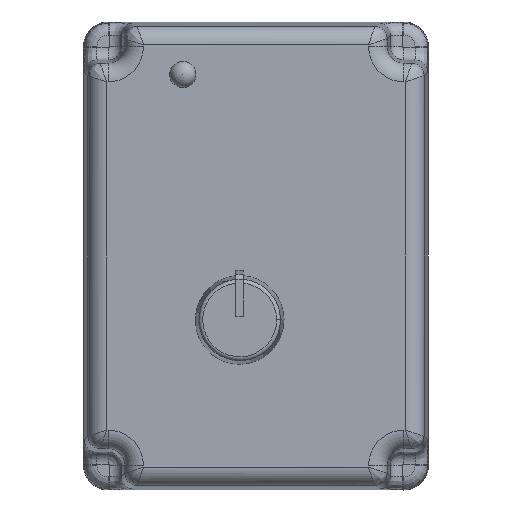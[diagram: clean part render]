
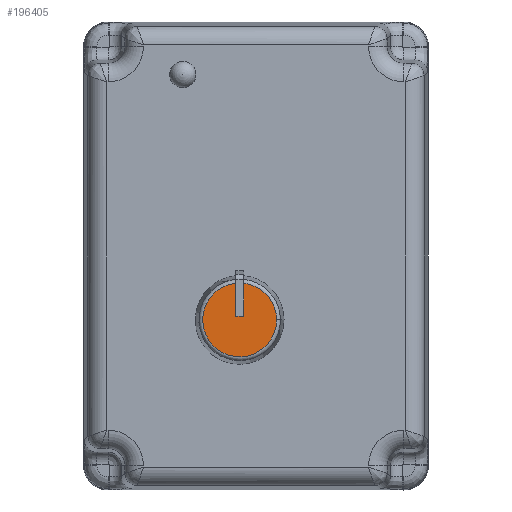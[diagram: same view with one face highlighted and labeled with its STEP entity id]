
A CAD part, front view. The second image highlights one B-rep face of the part: STEP entity #196405.
In plain terms, the highlighted planar face has unit normal (0, -1, 0).
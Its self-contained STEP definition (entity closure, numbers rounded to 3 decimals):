
#195922 = PLANE('',#195923);
#195923 = AXIS2_PLACEMENT_3D('',#195924,#195925,#195926);
#195924 = CARTESIAN_POINT('',(-1.598,14.376,
    -1.888));
#195925 = DIRECTION('',(1.,0.,0.));
#195926 = DIRECTION('',(0.,0.,-1.));
#195947 = VERTEX_POINT('',#195948);
#195948 = CARTESIAN_POINT('',(-1.598,0.66,
    -7.755));
#195962 = PLANE('',#195963);
#195963 = AXIS2_PLACEMENT_3D('',#195964,#195965,#195966);
#195964 = CARTESIAN_POINT('',(-1.598,14.376,
    -7.755));
#195965 = DIRECTION('',(0.,0.,-1.));
#195966 = DIRECTION('',(-1.,0.,0.));
#195974 = EDGE_CURVE('',#195947,#195975,#195977,.T.);
#195975 = VERTEX_POINT('',#195976);
#195976 = CARTESIAN_POINT('',(-1.598,0.66,
    -3.512));
#195977 = SURFACE_CURVE('',#195978,(#195982,#195989),.PCURVE_S1.);
#195978 = LINE('',#195979,#195980);
#195979 = CARTESIAN_POINT('',(-1.598,0.66,
    -5.063));
#195980 = VECTOR('',#195981,1.);
#195981 = DIRECTION('',(0.,0.,1.));
#195982 = PCURVE('',#195922,#195983);
#195983 = DEFINITIONAL_REPRESENTATION('',(#195984),#195988);
#195984 = LINE('',#195985,#195986);
#195985 = CARTESIAN_POINT('',(3.175,-13.716));
#195986 = VECTOR('',#195987,1.);
#195987 = DIRECTION('',(-1.,0.));
#195988 = ( GEOMETRIC_REPRESENTATION_CONTEXT(2) 
PARAMETRIC_REPRESENTATION_CONTEXT() REPRESENTATION_CONTEXT('2D SPACE',''
  ) );
#195989 = PCURVE('',#195990,#195995);
#195990 = PLANE('',#195991);
#195991 = AXIS2_PLACEMENT_3D('',#195992,#195993,#195994);
#195992 = CARTESIAN_POINT('',(-2.106,0.66,
    -8.238));
#195993 = DIRECTION('',(0.,-1.,0.));
#195994 = DIRECTION('',(1.,0.,0.));
#195995 = DEFINITIONAL_REPRESENTATION('',(#195996),#196000);
#195996 = LINE('',#195997,#195998);
#195997 = CARTESIAN_POINT('',(0.508,3.175));
#195998 = VECTOR('',#195999,1.);
#195999 = DIRECTION('',(0.,1.));
#196000 = ( GEOMETRIC_REPRESENTATION_CONTEXT(2) 
PARAMETRIC_REPRESENTATION_CONTEXT() REPRESENTATION_CONTEXT('2D SPACE',''
  ) );
#196040 = TOROIDAL_SURFACE('',#196041,4.753,0.5);
#196041 = AXIS2_PLACEMENT_3D('',#196042,#196043,#196044);
#196042 = CARTESIAN_POINT('',(-2.106,1.16,
    -8.238));
#196043 = DIRECTION('',(0.,-1.,0.));
#196044 = DIRECTION('',(1.,0.,0.));
#196225 = PLANE('',#196226);
#196226 = AXIS2_PLACEMENT_3D('',#196227,#196228,#196229);
#196227 = CARTESIAN_POINT('',(-2.614,14.376,
    -7.755));
#196228 = DIRECTION('',(-1.,0.,0.));
#196229 = DIRECTION('',(0.,0.,1.));
#196311 = EDGE_CURVE('',#196312,#195947,#196314,.T.);
#196312 = VERTEX_POINT('',#196313);
#196313 = CARTESIAN_POINT('',(-2.614,0.66,
    -7.755));
#196314 = SURFACE_CURVE('',#196315,(#196319,#196326),.PCURVE_S1.);
#196315 = LINE('',#196316,#196317);
#196316 = CARTESIAN_POINT('',(-1.852,0.66,
    -7.755));
#196317 = VECTOR('',#196318,1.);
#196318 = DIRECTION('',(1.,0.,0.));
#196319 = PCURVE('',#195962,#196320);
#196320 = DEFINITIONAL_REPRESENTATION('',(#196321),#196325);
#196321 = LINE('',#196322,#196323);
#196322 = CARTESIAN_POINT('',(0.254,-13.716));
#196323 = VECTOR('',#196324,1.);
#196324 = DIRECTION('',(-1.,-0.));
#196325 = ( GEOMETRIC_REPRESENTATION_CONTEXT(2) 
PARAMETRIC_REPRESENTATION_CONTEXT() REPRESENTATION_CONTEXT('2D SPACE',''
  ) );
#196326 = PCURVE('',#195990,#196327);
#196327 = DEFINITIONAL_REPRESENTATION('',(#196328),#196332);
#196328 = LINE('',#196329,#196330);
#196329 = CARTESIAN_POINT('',(0.254,0.483));
#196330 = VECTOR('',#196331,1.);
#196331 = DIRECTION('',(1.,0.));
#196332 = ( GEOMETRIC_REPRESENTATION_CONTEXT(2) 
PARAMETRIC_REPRESENTATION_CONTEXT() REPRESENTATION_CONTEXT('2D SPACE',''
  ) );
#196405 = ADVANCED_FACE('',(#196406),#195990,.T.);
#196406 = FACE_BOUND('',#196407,.T.);
#196407 = EDGE_LOOP('',(#196408,#196431,#196460,#196482,#196483));
#196408 = ORIENTED_EDGE('',*,*,#196409,.F.);
#196409 = EDGE_CURVE('',#196410,#196312,#196412,.T.);
#196410 = VERTEX_POINT('',#196411);
#196411 = CARTESIAN_POINT('',(-2.614,0.66,
    -3.512));
#196412 = SURFACE_CURVE('',#196413,(#196417,#196424),.PCURVE_S1.);
#196413 = LINE('',#196414,#196415);
#196414 = CARTESIAN_POINT('',(-2.614,0.66,
    -7.997));
#196415 = VECTOR('',#196416,1.);
#196416 = DIRECTION('',(0.,0.,-1.));
#196417 = PCURVE('',#195990,#196418);
#196418 = DEFINITIONAL_REPRESENTATION('',(#196419),#196423);
#196419 = LINE('',#196420,#196421);
#196420 = CARTESIAN_POINT('',(-0.508,0.241));
#196421 = VECTOR('',#196422,1.);
#196422 = DIRECTION('',(0.,-1.));
#196423 = ( GEOMETRIC_REPRESENTATION_CONTEXT(2) 
PARAMETRIC_REPRESENTATION_CONTEXT() REPRESENTATION_CONTEXT('2D SPACE',''
  ) );
#196424 = PCURVE('',#196225,#196425);
#196425 = DEFINITIONAL_REPRESENTATION('',(#196426),#196430);
#196426 = LINE('',#196427,#196428);
#196427 = CARTESIAN_POINT('',(-0.241,-13.716));
#196428 = VECTOR('',#196429,1.);
#196429 = DIRECTION('',(-1.,0.));
#196430 = ( GEOMETRIC_REPRESENTATION_CONTEXT(2) 
PARAMETRIC_REPRESENTATION_CONTEXT() REPRESENTATION_CONTEXT('2D SPACE',''
  ) );
#196431 = ORIENTED_EDGE('',*,*,#196432,.T.);
#196432 = EDGE_CURVE('',#196410,#196433,#196435,.T.);
#196433 = VERTEX_POINT('',#196434);
#196434 = CARTESIAN_POINT('',(2.648,0.66,
    -8.238));
#196435 = SURFACE_CURVE('',#196436,(#196441,#196448),.PCURVE_S1.);
#196436 = CIRCLE('',#196437,4.753);
#196437 = AXIS2_PLACEMENT_3D('',#196438,#196439,#196440);
#196438 = CARTESIAN_POINT('',(-2.106,0.66,
    -8.238));
#196439 = DIRECTION('',(0.,-1.,0.));
#196440 = DIRECTION('',(-0.097,0.,
    0.995));
#196441 = PCURVE('',#195990,#196442);
#196442 = DEFINITIONAL_REPRESENTATION('',(#196443),#196447);
#196443 = CIRCLE('',#196444,4.753);
#196444 = AXIS2_PLACEMENT_2D('',#196445,#196446);
#196445 = CARTESIAN_POINT('',(0.,0.));
#196446 = DIRECTION('',(-0.097,0.995));
#196447 = ( GEOMETRIC_REPRESENTATION_CONTEXT(2) 
PARAMETRIC_REPRESENTATION_CONTEXT() REPRESENTATION_CONTEXT('2D SPACE',''
  ) );
#196448 = PCURVE('',#196449,#196454);
#196449 = TOROIDAL_SURFACE('',#196450,4.753,0.5);
#196450 = AXIS2_PLACEMENT_3D('',#196451,#196452,#196453);
#196451 = CARTESIAN_POINT('',(-2.106,1.16,
    -8.238));
#196452 = DIRECTION('',(0.,-1.,0.));
#196453 = DIRECTION('',(-0.097,0.,
    0.995));
#196454 = DEFINITIONAL_REPRESENTATION('',(#196455),#196459);
#196455 = LINE('',#196456,#196457);
#196456 = CARTESIAN_POINT('',(0.,1.571));
#196457 = VECTOR('',#196458,1.);
#196458 = DIRECTION('',(1.,0.));
#196459 = ( GEOMETRIC_REPRESENTATION_CONTEXT(2) 
PARAMETRIC_REPRESENTATION_CONTEXT() REPRESENTATION_CONTEXT('2D SPACE',''
  ) );
#196460 = ORIENTED_EDGE('',*,*,#196461,.T.);
#196461 = EDGE_CURVE('',#196433,#195975,#196462,.T.);
#196462 = SURFACE_CURVE('',#196463,(#196468,#196475),.PCURVE_S1.);
#196463 = CIRCLE('',#196464,4.753);
#196464 = AXIS2_PLACEMENT_3D('',#196465,#196466,#196467);
#196465 = CARTESIAN_POINT('',(-2.106,0.66,
    -8.238));
#196466 = DIRECTION('',(0.,-1.,0.));
#196467 = DIRECTION('',(1.,0.,0.));
#196468 = PCURVE('',#195990,#196469);
#196469 = DEFINITIONAL_REPRESENTATION('',(#196470),#196474);
#196470 = CIRCLE('',#196471,4.753);
#196471 = AXIS2_PLACEMENT_2D('',#196472,#196473);
#196472 = CARTESIAN_POINT('',(0.,0.));
#196473 = DIRECTION('',(1.,0.));
#196474 = ( GEOMETRIC_REPRESENTATION_CONTEXT(2) 
PARAMETRIC_REPRESENTATION_CONTEXT() REPRESENTATION_CONTEXT('2D SPACE',''
  ) );
#196475 = PCURVE('',#196040,#196476);
#196476 = DEFINITIONAL_REPRESENTATION('',(#196477),#196481);
#196477 = LINE('',#196478,#196479);
#196478 = CARTESIAN_POINT('',(0.,1.571));
#196479 = VECTOR('',#196480,1.);
#196480 = DIRECTION('',(1.,0.));
#196481 = ( GEOMETRIC_REPRESENTATION_CONTEXT(2) 
PARAMETRIC_REPRESENTATION_CONTEXT() REPRESENTATION_CONTEXT('2D SPACE',''
  ) );
#196482 = ORIENTED_EDGE('',*,*,#195974,.F.);
#196483 = ORIENTED_EDGE('',*,*,#196311,.F.);
